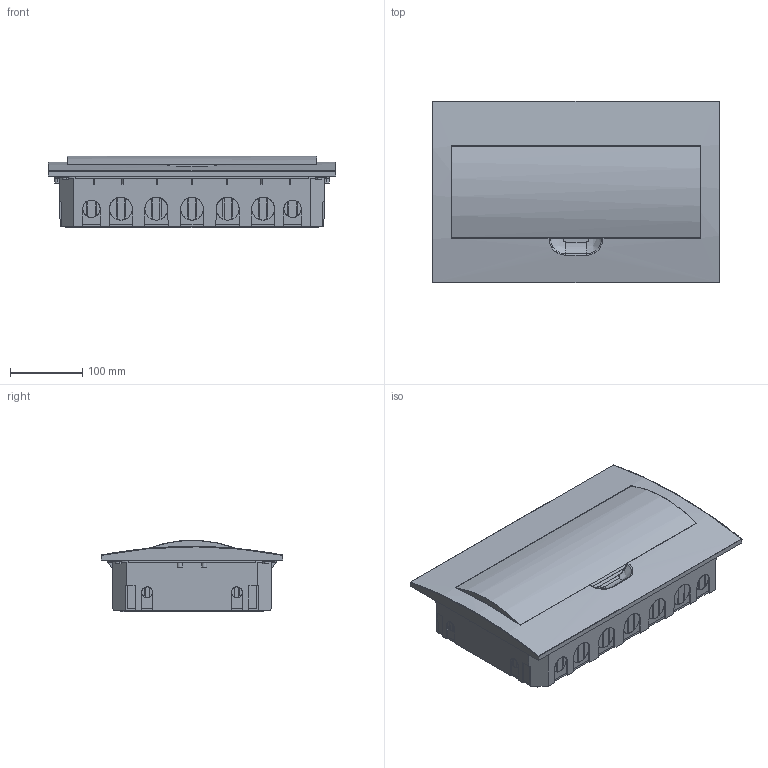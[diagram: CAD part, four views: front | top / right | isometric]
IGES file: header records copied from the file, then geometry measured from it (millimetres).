
Start section: SolidWorks IGES file using analytic representation for surfaces
Global section: file name: C:\Users\Rodrigo\Desktop\weg1\2014\QDW02\QDW02 E&F\QDW02-E\QDW02-18-E\conversão\QDW02-18-E.IGS; native system: SolidWorks 2012; preprocessor: SolidWorks 2012; author: Rodrigo; date: 140213.103437; units: millimetre
Bounding box: 397 x 251 x 98.31 mm (x, y, z)
Surface area: 611604.6 mm2 (no closed solid volume)
Topology: 0 solids, 0 shells, 691 faces, 6936 edges, 6936 vertices
Faces by surface type: bspline 515, revolution 176
